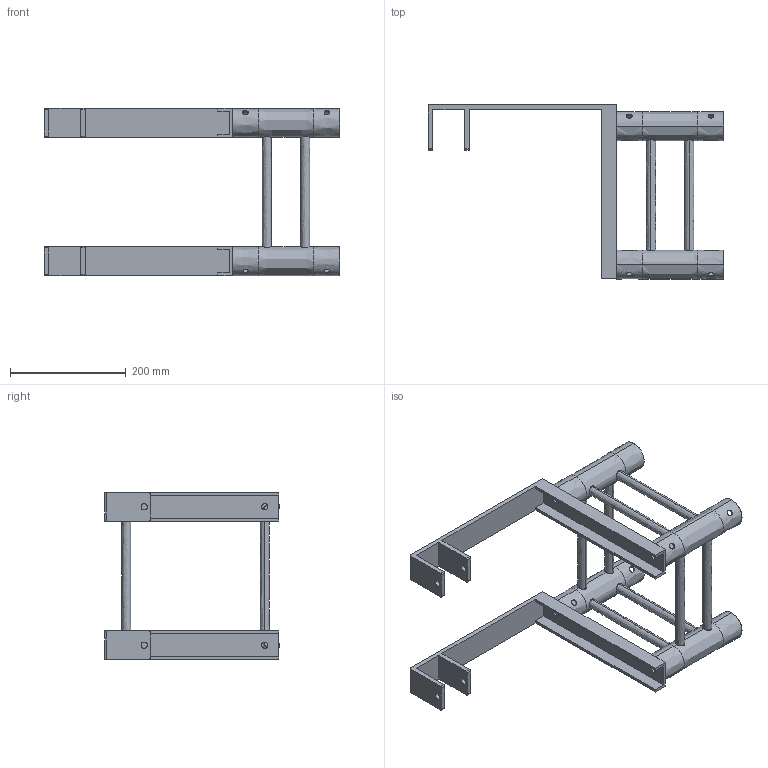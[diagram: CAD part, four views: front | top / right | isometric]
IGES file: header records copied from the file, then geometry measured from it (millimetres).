
Start section: SolidWorks IGES file using analytic representation for surfaces
Global section: file name: K:\BIBLIO\asd_biblio\Accessoires\L290CA\L290CA.IGS; native system: SolidWorks 2009; preprocessor: SolidWorks 2009; author: des3; date: 091023.165009; units: millimetre
Bounding box: 511 x 301 x 289 mm (x, y, z)
Surface area: 605896.8 mm2 (no closed solid volume)
Topology: 0 solids, 0 shells, 278 faces, 10320 edges, 10320 vertices
Faces by surface type: revolution 226, bspline 52
